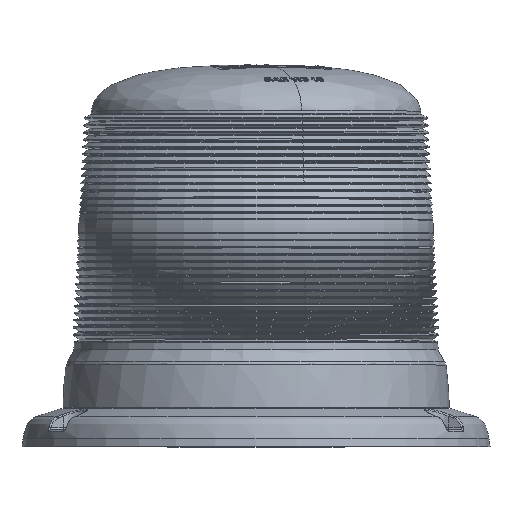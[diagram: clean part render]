
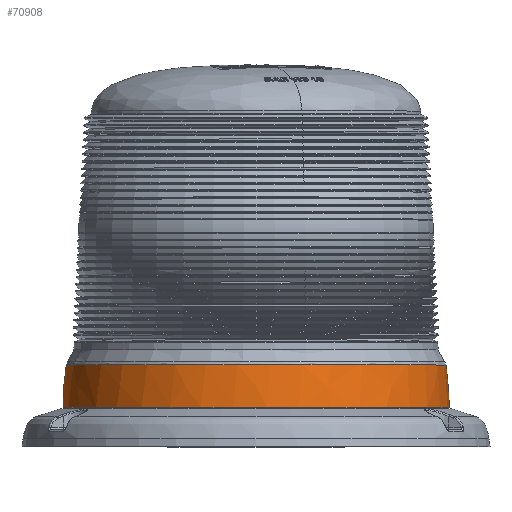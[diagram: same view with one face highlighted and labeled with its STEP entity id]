
A CAD part, top view. The second image highlights one B-rep face of the part: STEP entity #70908.
In plain terms, the highlighted free-form (B-spline) face has degree [2, 2] with [3, 9] control points.
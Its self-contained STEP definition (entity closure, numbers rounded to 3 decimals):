
#1765=(
BOUNDED_SURFACE()
B_SPLINE_SURFACE(2,2,((#102362,#102363,#102364,#102365,#102366,#102367,
#102368,#102369,#102370),(#102371,#102372,#102373,#102374,#102375,#102376,
#102377,#102378,#102379),(#102380,#102381,#102382,#102383,#102384,#102385,
#102386,#102387,#102388)),.UNSPECIFIED.,.F.,.T.,.F.)
B_SPLINE_SURFACE_WITH_KNOTS((3,3),(3,2,2,2,3),(0.038,0.114),
(-3.142,-1.571,0.,1.571,3.142),
 .UNSPECIFIED.)
GEOMETRIC_REPRESENTATION_ITEM()
RATIONAL_B_SPLINE_SURFACE(((1.,0.707,1.,0.707,1.,
0.707,1.,0.707,1.),(0.999,0.707,
0.999,0.707,0.999,0.707,
0.999,0.707,0.999),(1.,0.707,
1.,0.707,1.,0.707,1.,0.707,1.)))
REPRESENTATION_ITEM('')
SURFACE()
);
#4543=FACE_OUTER_BOUND('',#8741,.T.);
#8741=EDGE_LOOP('',(#45912,#45913,#45914,#45915,#45916,#45917,#45918));
#13336=CIRCLE('',#75454,57.735);
#13338=CIRCLE('',#75456,57.735);
#13339=CIRCLE('',#75457,167.3);
#13340=CIRCLE('',#75458,58.711);
#13341=CIRCLE('',#75459,58.711);
#13342=CIRCLE('',#75460,57.735);
#27369=VERTEX_POINT('',#102341);
#27370=VERTEX_POINT('',#102342);
#27372=VERTEX_POINT('',#102353);
#27373=VERTEX_POINT('',#102389);
#27374=VERTEX_POINT('',#102391);
#34544=EDGE_CURVE('',#27369,#27370,#13336,.T.);
#34548=EDGE_CURVE('',#27370,#27372,#13338,.T.);
#34549=EDGE_CURVE('',#27370,#27373,#13339,.T.);
#34550=EDGE_CURVE('',#27373,#27374,#13340,.T.);
#34551=EDGE_CURVE('',#27374,#27373,#13341,.T.);
#34552=EDGE_CURVE('',#27372,#27369,#13342,.T.);
#45912=ORIENTED_EDGE('',*,*,#34544,.T.);
#45913=ORIENTED_EDGE('',*,*,#34549,.T.);
#45914=ORIENTED_EDGE('',*,*,#34550,.T.);
#45915=ORIENTED_EDGE('',*,*,#34551,.T.);
#45916=ORIENTED_EDGE('',*,*,#34549,.F.);
#45917=ORIENTED_EDGE('',*,*,#34548,.T.);
#45918=ORIENTED_EDGE('',*,*,#34552,.T.);
#70908=ADVANCED_FACE('',(#4543),#1765,.F.);
#75454=AXIS2_PLACEMENT_3D('',#102343,#80233,#80234);
#75456=AXIS2_PLACEMENT_3D('',#102361,#80237,#80238);
#75457=AXIS2_PLACEMENT_3D('',#102390,#80239,#80240);
#75458=AXIS2_PLACEMENT_3D('',#102392,#80241,#80242);
#75459=AXIS2_PLACEMENT_3D('',#102393,#80243,#80244);
#75460=AXIS2_PLACEMENT_3D('',#102394,#80245,#80246);
#80233=DIRECTION('center_axis',(0.,-1.,0.));
#80234=DIRECTION('ref_axis',(-0.961,0.,0.276));
#80237=DIRECTION('center_axis',(0.,-1.,0.));
#80238=DIRECTION('ref_axis',(-0.961,0.,0.276));
#80239=DIRECTION('center_axis',(-1.,0.,0.));
#80240=DIRECTION('ref_axis',(0.,0.,
-1.));
#80241=DIRECTION('center_axis',(0.,1.,0.));
#80242=DIRECTION('ref_axis',(0.276,0.,0.961));
#80243=DIRECTION('center_axis',(0.,1.,0.));
#80244=DIRECTION('ref_axis',(0.276,0.,0.961));
#80245=DIRECTION('center_axis',(0.,-1.,0.));
#80246=DIRECTION('ref_axis',(-0.961,0.,0.276));
#102341=CARTESIAN_POINT('',(-15.914,13.235,-55.499));
#102342=CARTESIAN_POINT('',(0.,13.235,-57.735));
#102343=CARTESIAN_POINT('Origin',(0.,13.235,
0.));
#102353=CARTESIAN_POINT('',(-55.499,13.235,15.914));
#102361=CARTESIAN_POINT('Origin',(0.,13.235,
0.));
#102362=CARTESIAN_POINT('Ctrl Pts',(0.,0.411,
-58.711));
#102363=CARTESIAN_POINT('Ctrl Pts',(-58.711,0.411,
-58.711));
#102364=CARTESIAN_POINT('Ctrl Pts',(-58.711,0.411,
0.));
#102365=CARTESIAN_POINT('Ctrl Pts',(-58.711,0.411,
58.711));
#102366=CARTESIAN_POINT('Ctrl Pts',(0.,0.411,
58.711));
#102367=CARTESIAN_POINT('Ctrl Pts',(58.711,0.411,58.711));
#102368=CARTESIAN_POINT('Ctrl Pts',(58.711,0.411,0.));
#102369=CARTESIAN_POINT('Ctrl Pts',(58.711,0.411,-58.711));
#102370=CARTESIAN_POINT('Ctrl Pts',(0.,0.411,
-58.711));
#102371=CARTESIAN_POINT('Ctrl Pts',(0.,6.842,
-58.47));
#102372=CARTESIAN_POINT('Ctrl Pts',(-58.47,6.842,
-58.47));
#102373=CARTESIAN_POINT('Ctrl Pts',(-58.47,6.842,0.));
#102374=CARTESIAN_POINT('Ctrl Pts',(-58.47,6.842,
58.47));
#102375=CARTESIAN_POINT('Ctrl Pts',(0.,6.842,
58.47));
#102376=CARTESIAN_POINT('Ctrl Pts',(58.47,6.842,58.47));
#102377=CARTESIAN_POINT('Ctrl Pts',(58.47,6.842,0.));
#102378=CARTESIAN_POINT('Ctrl Pts',(58.47,6.842,-58.47));
#102379=CARTESIAN_POINT('Ctrl Pts',(0.,6.842,
-58.47));
#102380=CARTESIAN_POINT('Ctrl Pts',(0.,13.235,
-57.735));
#102381=CARTESIAN_POINT('Ctrl Pts',(-57.735,13.235,
-57.735));
#102382=CARTESIAN_POINT('Ctrl Pts',(-57.735,13.235,
0.));
#102383=CARTESIAN_POINT('Ctrl Pts',(-57.735,13.235,
57.735));
#102384=CARTESIAN_POINT('Ctrl Pts',(0.,13.235,
57.735));
#102385=CARTESIAN_POINT('Ctrl Pts',(57.735,13.235,57.735));
#102386=CARTESIAN_POINT('Ctrl Pts',(57.735,13.235,0.));
#102387=CARTESIAN_POINT('Ctrl Pts',(57.735,13.235,-57.735));
#102388=CARTESIAN_POINT('Ctrl Pts',(0.,13.235,
-57.735));
#102389=CARTESIAN_POINT('',(0.,0.411,-58.711));
#102390=CARTESIAN_POINT('Origin',(0.,-5.868,
108.471));
#102391=CARTESIAN_POINT('',(-16.183,0.411,-56.437));
#102392=CARTESIAN_POINT('Origin',(0.,0.411,0.));
#102393=CARTESIAN_POINT('Origin',(0.,0.411,0.));
#102394=CARTESIAN_POINT('Origin',(0.,13.235,0.));
